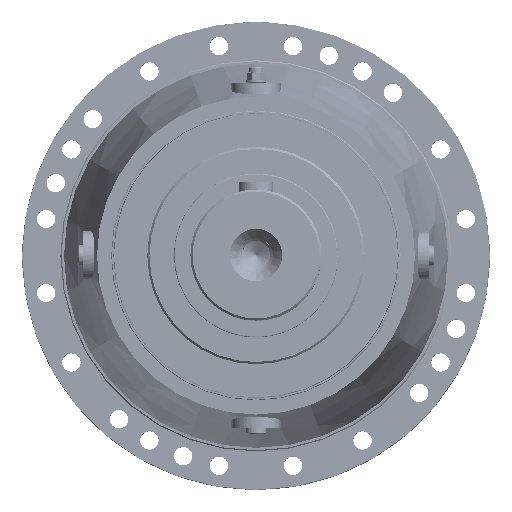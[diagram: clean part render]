
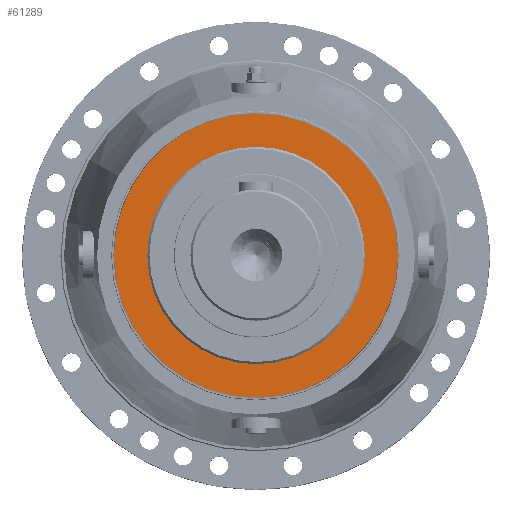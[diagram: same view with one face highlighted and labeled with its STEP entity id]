
A CAD part, top view. The second image highlights one B-rep face of the part: STEP entity #61289.
In plain terms, the highlighted planar face has unit normal (0, 0, 1).
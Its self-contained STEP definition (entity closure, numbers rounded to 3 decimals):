
#283 = DIRECTION ( 'NONE',  ( 0., 0., -1. ) ) ;
#308 = PLANE ( 'NONE',  #120470 ) ;
#309 = DIRECTION ( 'NONE',  ( 0., 1., 0. ) ) ;
#326 = CARTESIAN_POINT ( 'NONE',  ( 0., 130., 203. ) ) ;
#7111 = FACE_BOUND ( 'NONE', #240843, .T. ) ;
#7187 = FACE_OUTER_BOUND ( 'NONE', #240669, .T. ) ;
#40510 = ORIENTED_EDGE ( 'NONE', *, *, #310306, .F. ) ;
#40755 = ORIENTED_EDGE ( 'NONE', *, *, #310179, .F. ) ;
#41027 = ORIENTED_EDGE ( 'NONE', *, *, #310155, .F. ) ;
#41103 = ORIENTED_EDGE ( 'NONE', *, *, #310215, .F. ) ;
#61289 = ADVANCED_FACE ( 'NONE', ( #7111, #7187 ), #308, .F. ) ;
#61420 = VERTEX_POINT ( 'NONE', #315933 ) ;
#61453 = VERTEX_POINT ( 'NONE', #316108 ) ;
#61526 = VERTEX_POINT ( 'NONE', #316168 ) ;
#61575 = VERTEX_POINT ( 'NONE', #316396 ) ;
#120470 = AXIS2_PLACEMENT_3D ( 'NONE', #326, #283, #309 ) ;
#239454 = CIRCLE ( 'NONE', #270067, 99.5 ) ;
#239465 = CIRCLE ( 'NONE', #270092, 130. ) ;
#239642 = CIRCLE ( 'NONE', #270065, 130. ) ;
#239845 = CIRCLE ( 'NONE', #270146, 99.5 ) ;
#240669 = EDGE_LOOP ( 'NONE', ( #40755, #41103 ) ) ;
#240843 = EDGE_LOOP ( 'NONE', ( #41027, #40510 ) ) ;
#243238 = CARTESIAN_POINT ( 'NONE',  ( 0., 0., 203. ) ) ;
#243298 = DIRECTION ( 'NONE',  ( 0., 0., 1. ) ) ;
#243301 = DIRECTION ( 'NONE',  ( 0., 1., 0. ) ) ;
#243329 = DIRECTION ( 'NONE',  ( 0., 1., 0. ) ) ;
#243355 = CARTESIAN_POINT ( 'NONE',  ( 0., 0., 203. ) ) ;
#243376 = DIRECTION ( 'NONE',  ( 0., 0., -1. ) ) ;
#243558 = DIRECTION ( 'NONE',  ( 0., 1., 0. ) ) ;
#243594 = CARTESIAN_POINT ( 'NONE',  ( 0., 0., 203. ) ) ;
#243626 = DIRECTION ( 'NONE',  ( 0., 0., -1. ) ) ;
#243995 = DIRECTION ( 'NONE',  ( 0., 0., 1. ) ) ;
#244063 = DIRECTION ( 'NONE',  ( 0., 1., 0. ) ) ;
#244074 = CARTESIAN_POINT ( 'NONE',  ( 0., 0., 203. ) ) ;
#270065 = AXIS2_PLACEMENT_3D ( 'NONE', #243594, #243626, #243558 ) ;
#270067 = AXIS2_PLACEMENT_3D ( 'NONE', #243238, #243298, #243301 ) ;
#270092 = AXIS2_PLACEMENT_3D ( 'NONE', #243355, #243376, #243329 ) ;
#270146 = AXIS2_PLACEMENT_3D ( 'NONE', #244074, #243995, #244063 ) ;
#310155 = EDGE_CURVE ( 'NONE', #61575, #61526, #239454, .T. ) ;
#310179 = EDGE_CURVE ( 'NONE', #61420, #61453, #239465, .T. ) ;
#310215 = EDGE_CURVE ( 'NONE', #61453, #61420, #239642, .T. ) ;
#310306 = EDGE_CURVE ( 'NONE', #61526, #61575, #239845, .T. ) ;
#315933 = CARTESIAN_POINT ( 'NONE',  ( 0., 130., 203. ) ) ;
#316108 = CARTESIAN_POINT ( 'NONE',  ( 0., -130., 203. ) ) ;
#316168 = CARTESIAN_POINT ( 'NONE',  ( 0., -99.5, 203. ) ) ;
#316396 = CARTESIAN_POINT ( 'NONE',  ( 0., 99.5, 203. ) ) ;
